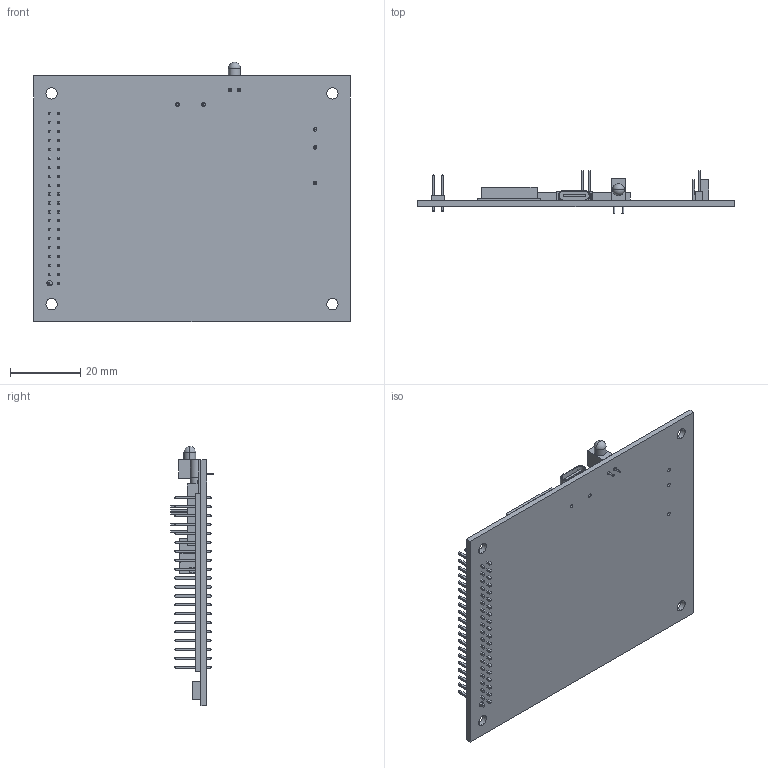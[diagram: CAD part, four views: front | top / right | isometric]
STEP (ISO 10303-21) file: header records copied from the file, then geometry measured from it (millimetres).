
FILE_DESCRIPTION (( 'STEP AP203' ), '1' );
FILE_NAME ('Assy PCB SP6-133 416025710-3 240616.STEP', '2024-06-19T18:46:40', ( '' ), ( '' ), 'SwSTEP 2.0', 'SolidWorks 2023', '' );
FILE_SCHEMA (( 'CONFIG_CONTROL_DESIGN' ));
Length unit declared in the file: inch
Products named in the file (9): 216060560-3 Conn 60P RA FPC Starconn; 210030040-3 Hdr Vert 20P 2 Rows; 023216806-3 Module ESP32-S3-WROOM-1-N16R8; 210018004-3 PH Conn 2.0-F-04p; PCB SP6-133 240616; 120014015-3 LED RA 3.4mm Green; 210021402-3 Header_2.0_2x1; Assy PCB SP6-133 416025710-3 240616; 212040910-3 Conn USB Type C
Assembly tree (10 placements, depth 2):
  Assy PCB SP6-133 416025710-3 240616
    PCB SP6-133 240616
    120014015-3 LED RA 3.4mm Green
    210018004-3 PH Conn 2.0-F-04p
    210021402-3 Header_2.0_2x1  x3
    210030040-3 Hdr Vert 20P 2 Rows
    216060560-3 Conn 60P RA FPC Starconn
    212040910-3 Conn USB Type C
    023216806-3 Module ESP32-S3-WROOM-1-N16R8
Bounding box: 90 x 12.1 x 73.89 mm (x, y, z)
Volume: 12381.5 mm3; surface area: 17612.9 mm2
Topology: 10 solids, 10 shells, 969 faces, 2206 edges, 1363 vertices
Faces by surface type: plane 901, cylinder 66, sphere 2
Entity records: 26191 total; most frequent: CARTESIAN_POINT 4341, ORIENTED_EDGE 4212, DIRECTION 4104, EDGE_CURVE 2106, LINE 1984, VECTOR 1984, VERTEX_POINT 1297, AXIS2_PLACEMENT_3D 1060
